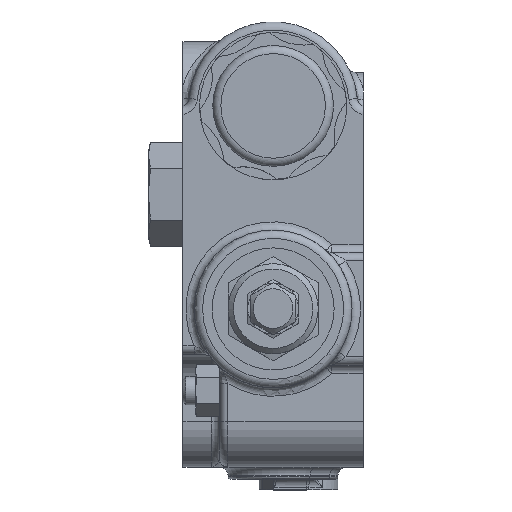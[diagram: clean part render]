
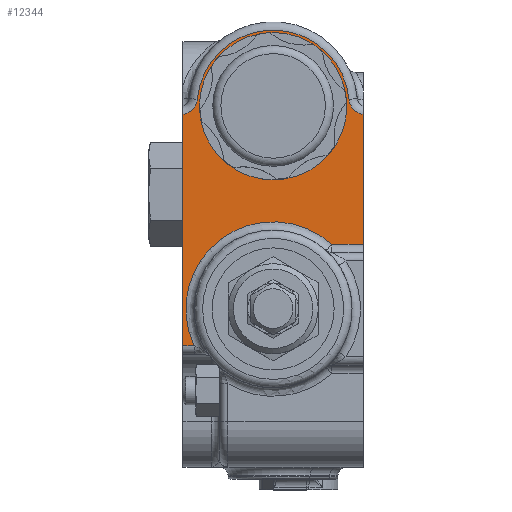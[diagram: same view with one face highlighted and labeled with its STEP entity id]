
A CAD part, top view. The second image highlights one B-rep face of the part: STEP entity #12344.
In plain terms, the highlighted planar face has unit normal (0, 0, 1).
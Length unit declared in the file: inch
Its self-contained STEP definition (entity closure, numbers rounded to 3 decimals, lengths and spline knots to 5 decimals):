
#6491=CARTESIAN_POINT('',(1.0,0.718,4.092));
#6492=VERTEX_POINT('',#6491);
#6500=CARTESIAN_POINT('',(0.64923,0.718,4.092));
#6501=VERTEX_POINT('',#6500);
#6502=CARTESIAN_POINT('',(1.,0.718,4.092));
#6503=DIRECTION('',(-1.0,0.0,0.0));
#6504=VECTOR('',#6503,0.35077);
#6505=LINE('',#6502,#6504);
#6506=EDGE_CURVE('',#6492,#6501,#6505,.T.);
#6874=CARTESIAN_POINT('',(-0.87729,-0.40912,4.092));
#6875=VERTEX_POINT('',#6874);
#6892=CARTESIAN_POINT('',(0.0,0.,4.092));
#6893=DIRECTION('',(0.0,0.0,1.));
#6894=DIRECTION('',(-0.719,0.695,0.0));
#6895=AXIS2_PLACEMENT_3D('',#6892,#6893,#6894);
#6896=CIRCLE('',#6895,0.968);
#6897=EDGE_CURVE('',#6501,#6875,#6896,.T.);
#8082=CARTESIAN_POINT('',(-1.0,2.15894,4.092));
#8083=VERTEX_POINT('',#8082);
#8091=CARTESIAN_POINT('',(-0.84156,2.32622,4.092));
#8092=VERTEX_POINT('',#8091);
#8093=CARTESIAN_POINT('',(-1.0268,2.343,4.092));
#8094=DIRECTION('',(0.0,0.0,1.));
#8095=DIRECTION('',(0.724,-0.69,0.0));
#8096=AXIS2_PLACEMENT_3D('',#8093,#8094,#8095);
#8097=CIRCLE('',#8096,0.186);
#8098=EDGE_CURVE('',#8083,#8092,#8097,.T.);
#8117=CARTESIAN_POINT('',(0.84156,2.32622,4.092));
#8118=VERTEX_POINT('',#8117);
#8119=CARTESIAN_POINT('',(0.,2.25,4.092));
#8120=DIRECTION('',(0.0,0.0,-1.0));
#8121=DIRECTION('',(0.0,1.0,0.0));
#8122=AXIS2_PLACEMENT_3D('',#8119,#8120,#8121);
#8123=CIRCLE('',#8122,0.845);
#8124=EDGE_CURVE('',#8092,#8118,#8123,.T.);
#8142=CARTESIAN_POINT('',(1.0,2.15894,4.092));
#8143=VERTEX_POINT('',#8142);
#8180=CARTESIAN_POINT('',(1.0268,2.343,4.092));
#8181=DIRECTION('',(0.0,0.0,1.0));
#8182=DIRECTION('',(-0.724,-0.69,0.0));
#8183=AXIS2_PLACEMENT_3D('',#8180,#8181,#8182);
#8184=CIRCLE('',#8183,0.186);
#8185=EDGE_CURVE('',#8118,#8143,#8184,.T.);
#12301=CARTESIAN_POINT('',(-1.094,-0.52454,4.092));
#12302=DIRECTION('',(0.0,0.0,1.0));
#12303=DIRECTION('',(1.0,0.0,0.0));
#12304=AXIS2_PLACEMENT_3D('',#12301,#12302,#12303);
#12305=PLANE('',#12304);
#12306=ORIENTED_EDGE('',*,*,#6897,.F.);
#12307=ORIENTED_EDGE('',*,*,#6506,.F.);
#12308=CARTESIAN_POINT('',(1.0,0.718,4.092));
#12309=DIRECTION('',(0.0,1.0,0.0));
#12310=VECTOR('',#12309,1.44094);
#12311=LINE('',#12308,#12310);
#12312=EDGE_CURVE('',#6492,#8143,#12311,.T.);
#12313=ORIENTED_EDGE('',*,*,#12312,.T.);
#12314=ORIENTED_EDGE('',*,*,#8185,.F.);
#12315=ORIENTED_EDGE('',*,*,#8124,.F.);
#12316=ORIENTED_EDGE('',*,*,#8098,.F.);
#12317=CARTESIAN_POINT('',(-1.0,-0.40912,4.092));
#12318=VERTEX_POINT('',#12317);
#12319=CARTESIAN_POINT('',(-1.0,2.15894,4.092));
#12320=DIRECTION('',(0.0,-1.0,0.0));
#12321=VECTOR('',#12320,2.56807);
#12322=LINE('',#12319,#12321);
#12323=EDGE_CURVE('',#8083,#12318,#12322,.T.);
#12324=ORIENTED_EDGE('',*,*,#12323,.T.);
#12325=CARTESIAN_POINT('',(-0.87729,-0.40912,4.092));
#12326=DIRECTION('',(-1.0,0.0,0.0));
#12327=VECTOR('',#12326,0.12271);
#12328=LINE('',#12325,#12327);
#12329=EDGE_CURVE('',#6875,#12318,#12328,.T.);
#12330=ORIENTED_EDGE('',*,*,#12329,.F.);
#12331=EDGE_LOOP('',(#12306,#12307,#12313,#12314,#12315,#12316,#12324,#12330));
#12332=FACE_OUTER_BOUND('',#12331,.T.);
#12333=CARTESIAN_POINT('',(0.8175,2.25,4.092));
#12334=VERTEX_POINT('',#12333);
#12335=CARTESIAN_POINT('',(0.,2.25,4.092));
#12336=DIRECTION('',(0.0,0.0,-1.0));
#12337=DIRECTION('',(1.0,0.0,0.0));
#12338=AXIS2_PLACEMENT_3D('',#12335,#12336,#12337);
#12339=CIRCLE('',#12338,0.8175);
#12340=EDGE_CURVE('',#12334,#12334,#12339,.T.);
#12341=ORIENTED_EDGE('',*,*,#12340,.T.);
#12342=EDGE_LOOP('',(#12341));
#12343=FACE_BOUND('',#12342,.T.);
#12344=ADVANCED_FACE('',(#12332,#12343),#12305,.T.);
